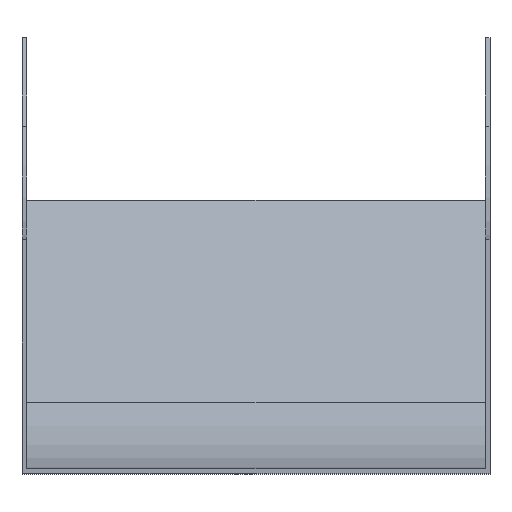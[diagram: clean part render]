
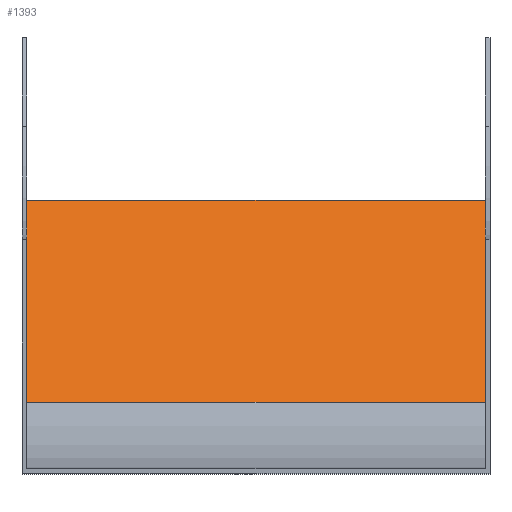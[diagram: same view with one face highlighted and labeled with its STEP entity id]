
A CAD part, top view. The second image highlights one B-rep face of the part: STEP entity #1393.
In plain terms, the highlighted planar face has unit normal (0, 0.707, 0.707).
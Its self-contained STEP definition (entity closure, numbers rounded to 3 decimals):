
#45 = CARTESIAN_POINT ( 'NONE',  ( 75., -51.972, -143.749 ) ) ;
#46 = AXIS2_PLACEMENT_3D ( 'NONE', #913, #769, #1278 ) ;
#216 = LINE ( 'NONE', #333, #1493 ) ;
#333 = CARTESIAN_POINT ( 'NONE',  ( -73.5, 12.924, -208.645 ) ) ;
#521 = FACE_OUTER_BOUND ( 'NONE', #1160, .T. ) ;
#548 = VERTEX_POINT ( 'NONE', #762 ) ;
#559 = CARTESIAN_POINT ( 'NONE',  ( 73.5, 12.924, -208.645 ) ) ;
#615 = CARTESIAN_POINT ( 'NONE',  ( -73.5, 12.924, -208.645 ) ) ;
#669 = EDGE_CURVE ( 'NONE', #1390, #932, #216, .T. ) ;
#672 = CARTESIAN_POINT ( 'NONE',  ( 73.5, 12.924, -208.645 ) ) ;
#691 = ORIENTED_EDGE ( 'NONE', *, *, #1530, .F. ) ;
#692 = ORIENTED_EDGE ( 'NONE', *, *, #1074, .T. ) ;
#762 = CARTESIAN_POINT ( 'NONE',  ( 73.5, -51.972, -143.749 ) ) ;
#769 = DIRECTION ( 'NONE',  ( 0., 0.707, 0.707 ) ) ;
#913 = CARTESIAN_POINT ( 'NONE',  ( 75., 12.924, -208.645 ) ) ;
#932 = VERTEX_POINT ( 'NONE', #615 ) ;
#1064 = LINE ( 'NONE', #45, #1215 ) ;
#1074 = EDGE_CURVE ( 'NONE', #548, #1137, #1090, .T. ) ;
#1090 = LINE ( 'NONE', #559, #1572 ) ;
#1091 = DIRECTION ( 'NONE',  ( -1., 0., 0. ) ) ;
#1123 = DIRECTION ( 'NONE',  ( 0., 0.707, -0.707 ) ) ;
#1137 = VERTEX_POINT ( 'NONE', #672 ) ;
#1160 = EDGE_LOOP ( 'NONE', ( #1240, #691, #692, #1556 ) ) ;
#1163 = PLANE ( 'NONE',  #46 ) ;
#1172 = CARTESIAN_POINT ( 'NONE',  ( 75., 12.924, -208.645 ) ) ;
#1215 = VECTOR ( 'NONE', #1091, 1000. ) ;
#1240 = ORIENTED_EDGE ( 'NONE', *, *, #669, .F. ) ;
#1278 = DIRECTION ( 'NONE',  ( 0., -0.707, 0.707 ) ) ;
#1324 = VECTOR ( 'NONE', #1447, 1000. ) ;
#1390 = VERTEX_POINT ( 'NONE', #1432 ) ;
#1393 = ADVANCED_FACE ( 'NONE', ( #521 ), #1163, .T. ) ;
#1432 = CARTESIAN_POINT ( 'NONE',  ( -73.5, -51.972, -143.749 ) ) ;
#1440 = LINE ( 'NONE', #1172, #1324 ) ;
#1447 = DIRECTION ( 'NONE',  ( -1., 0., 0. ) ) ;
#1493 = VECTOR ( 'NONE', #1123, 1000. ) ;
#1530 = EDGE_CURVE ( 'NONE', #548, #1390, #1064, .T. ) ;
#1556 = ORIENTED_EDGE ( 'NONE', *, *, #1597, .T. ) ;
#1572 = VECTOR ( 'NONE', #1606, 1000. ) ;
#1597 = EDGE_CURVE ( 'NONE', #1137, #932, #1440, .T. ) ;
#1606 = DIRECTION ( 'NONE',  ( 0., 0.707, -0.707 ) ) ;
